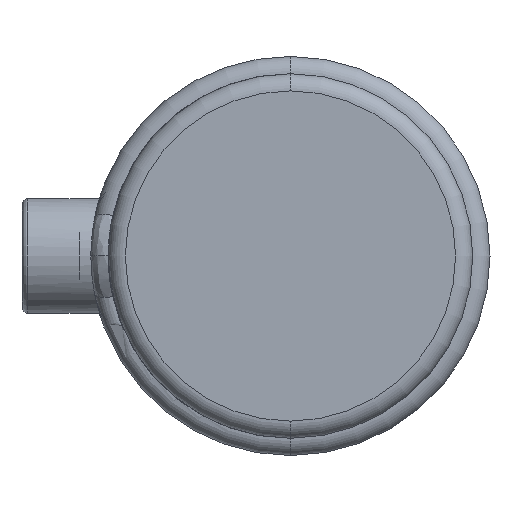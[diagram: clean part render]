
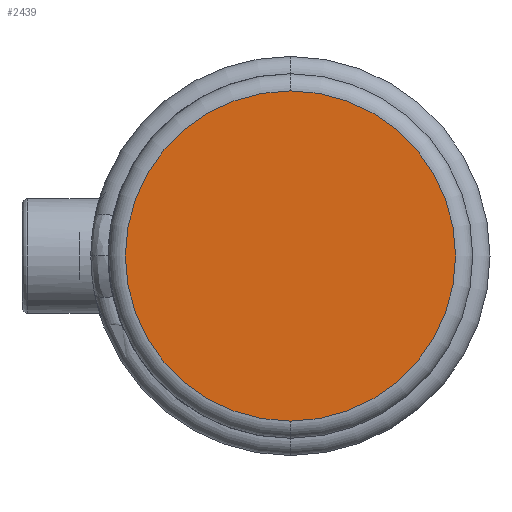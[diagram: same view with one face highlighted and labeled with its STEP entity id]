
A CAD part, left-side view. The second image highlights one B-rep face of the part: STEP entity #2439.
In plain terms, the highlighted planar face has unit normal (-1, 0, 0).
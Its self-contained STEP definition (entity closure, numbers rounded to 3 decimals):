
#178 = ORIENTED_EDGE ( 'NONE', *, *, #2293, .T. ) ;
#241 = DIRECTION ( 'NONE',  ( -1., 0., 0. ) ) ;
#274 = DIRECTION ( 'NONE',  ( -1., 0., 0. ) ) ;
#279 = AXIS2_PLACEMENT_3D ( 'NONE', #2980, #708, #3358 ) ;
#696 = VERTEX_POINT ( 'NONE', #2346 ) ;
#708 = DIRECTION ( 'NONE',  ( -1., 0., 0. ) ) ;
#870 = EDGE_CURVE ( 'NONE', #696, #2033, #2820, .T. ) ;
#984 = AXIS2_PLACEMENT_3D ( 'NONE', #2843, #241, #2864 ) ;
#1288 = ORIENTED_EDGE ( 'NONE', *, *, #870, .T. ) ;
#1655 = FACE_OUTER_BOUND ( 'NONE', #2501, .T. ) ;
#1707 = PLANE ( 'NONE',  #984 ) ;
#2033 = VERTEX_POINT ( 'NONE', #2341 ) ;
#2293 = EDGE_CURVE ( 'NONE', #2033, #696, #2788, .T. ) ;
#2341 = CARTESIAN_POINT ( 'NONE',  ( 0., 0., 28.75 ) ) ;
#2346 = CARTESIAN_POINT ( 'NONE',  ( 0., 0., -28.75 ) ) ;
#2439 = ADVANCED_FACE ( 'NONE', ( #1655 ), #1707, .T. ) ;
#2501 = EDGE_LOOP ( 'NONE', ( #178, #1288 ) ) ;
#2516 = CARTESIAN_POINT ( 'NONE',  ( 0., 0., 0. ) ) ;
#2788 = CIRCLE ( 'NONE', #3861, 28.75 ) ;
#2820 = CIRCLE ( 'NONE', #279, 28.75 ) ;
#2843 = CARTESIAN_POINT ( 'NONE',  ( 0., 0., 0. ) ) ;
#2864 = DIRECTION ( 'NONE',  ( 0., 0., 1. ) ) ;
#2898 = DIRECTION ( 'NONE',  ( 0., 0., 1. ) ) ;
#2980 = CARTESIAN_POINT ( 'NONE',  ( 0., 0., 0. ) ) ;
#3358 = DIRECTION ( 'NONE',  ( 0., 0., 1. ) ) ;
#3861 = AXIS2_PLACEMENT_3D ( 'NONE', #2516, #274, #2898 ) ;
